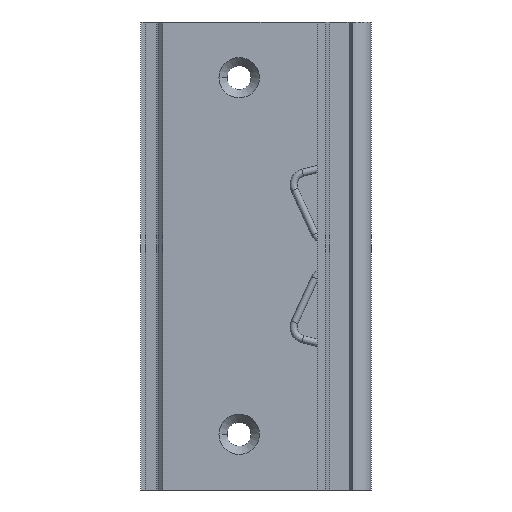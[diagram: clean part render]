
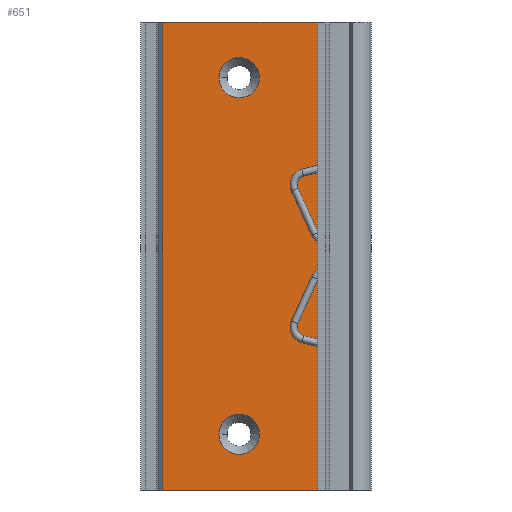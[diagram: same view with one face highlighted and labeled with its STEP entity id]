
A CAD part, left-side view. The second image highlights one B-rep face of the part: STEP entity #651.
In plain terms, the highlighted planar face has unit normal (-1, 0, 0).
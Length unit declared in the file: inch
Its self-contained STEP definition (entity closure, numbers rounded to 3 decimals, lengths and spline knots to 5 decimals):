
#54=DIRECTION('',(0.,1.,0.));
#55=VECTOR('',#54,1.3005);
#56=CARTESIAN_POINT('',(-0.08,0.455,-1.9685));
#57=LINE('',#56,#55);
#140=DIRECTION('',(0.,1.,0.));
#141=VECTOR('',#140,1.3005);
#142=CARTESIAN_POINT('',(-0.08,0.455,1.9685));
#143=LINE('',#142,#141);
#193=DIRECTION('',(0.,0.,1.));
#194=VECTOR('',#193,3.93701);
#195=CARTESIAN_POINT('',(-0.08,1.7555,-1.9685));
#196=LINE('',#195,#194);
#197=DIRECTION('',(0.,0.,1.));
#198=VECTOR('',#197,3.93701);
#199=CARTESIAN_POINT('',(-0.08,0.455,-1.9685));
#200=LINE('',#199,#198);
#201=CARTESIAN_POINT('',(-0.08,1.112,-1.5));
#202=DIRECTION('',(1.,0.,0.));
#203=DIRECTION('',(0.,-1.,0.));
#204=AXIS2_PLACEMENT_3D('',#201,#202,#203);
#206=CARTESIAN_POINT('',(-0.08,1.112,-1.5));
#207=DIRECTION('',(1.,0.,0.));
#208=DIRECTION('',(0.,1.,0.));
#209=AXIS2_PLACEMENT_3D('',#206,#207,#208);
#211=CARTESIAN_POINT('',(-0.08,1.112,1.5));
#212=DIRECTION('',(-1.,0.,0.));
#213=DIRECTION('',(0.,-1.,0.));
#214=AXIS2_PLACEMENT_3D('',#211,#212,#213);
#216=CARTESIAN_POINT('',(-0.08,1.112,1.5));
#217=DIRECTION('',(-1.,0.,0.));
#218=DIRECTION('',(0.,1.,0.));
#219=AXIS2_PLACEMENT_3D('',#216,#217,#218);
#353=CARTESIAN_POINT('',(-0.08,0.455,-1.9685));
#354=VERTEX_POINT('',#353);
#365=CARTESIAN_POINT('',(-0.08,0.455,1.9685));
#366=VERTEX_POINT('',#365);
#371=CARTESIAN_POINT('',(-0.08,1.7555,-1.9685));
#373=VERTEX_POINT('',#371);
#379=CARTESIAN_POINT('',(-0.08,1.7555,1.9685));
#381=VERTEX_POINT('',#379);
#419=CARTESIAN_POINT('',(-0.08,0.942,-1.5));
#420=CARTESIAN_POINT('',(-0.08,1.282,-1.5));
#421=VERTEX_POINT('',#419);
#422=VERTEX_POINT('',#420);
#427=CARTESIAN_POINT('',(-0.08,0.942,1.5));
#428=VERTEX_POINT('',#427);
#429=CARTESIAN_POINT('',(-0.08,1.282,1.5));
#430=VERTEX_POINT('',#429);
#627=CARTESIAN_POINT('',(-0.08,0.455,1.9685));
#628=DIRECTION('',(1.,0.,0.));
#629=DIRECTION('',(0.,1.,0.));
#630=AXIS2_PLACEMENT_3D('',#627,#628,#629);
#631=PLANE('',#630);
#633=ORIENTED_EDGE('',*,*,#632,.T.);
#634=ORIENTED_EDGE('',*,*,#594,.F.);
#635=ORIENTED_EDGE('',*,*,#438,.F.);
#636=ORIENTED_EDGE('',*,*,#482,.T.);
#637=EDGE_LOOP('',(#633,#634,#635,#636));
#638=FACE_OUTER_BOUND('',#637,.F.);
#640=ORIENTED_EDGE('',*,*,#639,.F.);
#642=ORIENTED_EDGE('',*,*,#641,.F.);
#643=EDGE_LOOP('',(#640,#642));
#644=FACE_BOUND('',#643,.F.);
#646=ORIENTED_EDGE('',*,*,#645,.T.);
#648=ORIENTED_EDGE('',*,*,#647,.T.);
#649=EDGE_LOOP('',(#646,#648));
#650=FACE_BOUND('',#649,.F.);
#651=ADVANCED_FACE('',(#638,#644,#650),#631,.F.);
#205=CIRCLE('',#204,0.17);
#210=CIRCLE('',#209,0.17);
#215=CIRCLE('',#214,0.17);
#220=CIRCLE('',#219,0.17);
#438=EDGE_CURVE('',#354,#366,#200,.T.);
#482=EDGE_CURVE('',#354,#373,#57,.T.);
#594=EDGE_CURVE('',#366,#381,#143,.T.);
#632=EDGE_CURVE('',#373,#381,#196,.T.);
#639=EDGE_CURVE('',#421,#422,#205,.T.);
#641=EDGE_CURVE('',#422,#421,#210,.T.);
#645=EDGE_CURVE('',#428,#430,#215,.T.);
#647=EDGE_CURVE('',#430,#428,#220,.T.);
